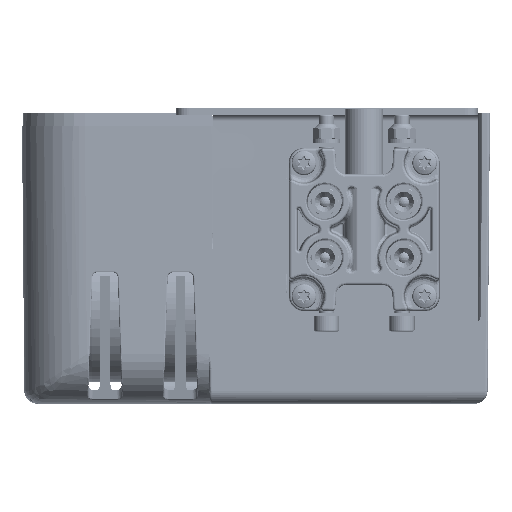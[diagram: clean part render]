
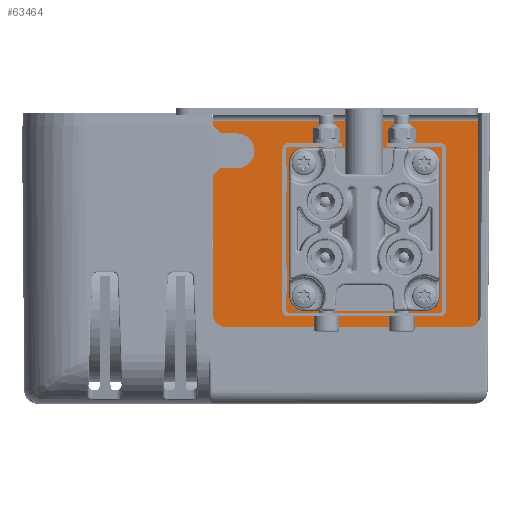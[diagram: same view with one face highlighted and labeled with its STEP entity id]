
A CAD part, left-side view. The second image highlights one B-rep face of the part: STEP entity #63464.
In plain terms, the highlighted planar face has unit normal (-1, 0, 0) as drawn and (0, 0, 1) by its records, which use the part's own axes.
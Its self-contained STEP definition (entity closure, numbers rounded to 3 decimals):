
#7462=LINE('',#131674,#11196);
#7465=LINE('',#131680,#11199);
#7468=LINE('',#131686,#11202);
#7471=LINE('',#131691,#11205);
#7474=LINE('',#131698,#11208);
#7477=LINE('',#131704,#11211);
#7480=LINE('',#131710,#11214);
#7483=LINE('',#131715,#11217);
#7486=LINE('',#131722,#11220);
#7489=LINE('',#131728,#11223);
#7492=LINE('',#131734,#11226);
#7495=LINE('',#131739,#11229);
#7510=LINE('',#131792,#11244);
#7511=LINE('',#131795,#11245);
#7512=LINE('',#131797,#11246);
#7513=LINE('',#131799,#11247);
#7514=LINE('',#131808,#11248);
#7515=LINE('',#131811,#11249);
#7516=LINE('',#131813,#11250);
#7517=LINE('',#131815,#11251);
#7518=LINE('',#131817,#11252);
#7519=LINE('',#131819,#11253);
#7520=LINE('',#131821,#11254);
#7521=LINE('',#131823,#11255);
#7522=LINE('',#131825,#11256);
#7523=LINE('',#131827,#11257);
#7524=LINE('',#131829,#11258);
#11196=VECTOR('',#77596,1000.);
#11199=VECTOR('',#77601,1000.);
#11202=VECTOR('',#77606,1000.);
#11205=VECTOR('',#77611,1000.);
#11208=VECTOR('',#77616,1000.);
#11211=VECTOR('',#77621,1000.);
#11214=VECTOR('',#77626,1000.);
#11217=VECTOR('',#77631,1000.);
#11220=VECTOR('',#77636,1000.);
#11223=VECTOR('',#77641,1000.);
#11226=VECTOR('',#77646,1000.);
#11229=VECTOR('',#77651,1000.);
#11244=VECTOR('',#77694,1000.);
#11245=VECTOR('',#77695,1000.);
#11246=VECTOR('',#77696,1000.);
#11247=VECTOR('',#77697,1000.);
#11248=VECTOR('',#77706,1000.);
#11249=VECTOR('',#77707,1000.);
#11250=VECTOR('',#77708,1000.);
#11251=VECTOR('',#77709,1000.);
#11252=VECTOR('',#77710,1000.);
#11253=VECTOR('',#77711,1000.);
#11254=VECTOR('',#77712,1000.);
#11255=VECTOR('',#77713,1000.);
#11256=VECTOR('',#77714,1000.);
#11257=VECTOR('',#77715,1000.);
#11258=VECTOR('',#77716,1000.);
#13589=PLANE('',#68047);
#22462=ORIENTED_EDGE('',*,*,#37341,.F.);
#22463=ORIENTED_EDGE('',*,*,#37338,.F.);
#22464=ORIENTED_EDGE('',*,*,#37347,.F.);
#22465=ORIENTED_EDGE('',*,*,#37344,.F.);
#22466=ORIENTED_EDGE('',*,*,#37353,.F.);
#22467=ORIENTED_EDGE('',*,*,#37350,.F.);
#22468=ORIENTED_EDGE('',*,*,#37359,.F.);
#22469=ORIENTED_EDGE('',*,*,#37356,.F.);
#22470=ORIENTED_EDGE('',*,*,#37365,.F.);
#22471=ORIENTED_EDGE('',*,*,#37362,.F.);
#22472=ORIENTED_EDGE('',*,*,#37371,.F.);
#22473=ORIENTED_EDGE('',*,*,#37368,.F.);
#22474=ORIENTED_EDGE('',*,*,#37396,.F.);
#22475=ORIENTED_EDGE('',*,*,#37397,.F.);
#22476=ORIENTED_EDGE('',*,*,#37398,.F.);
#22477=ORIENTED_EDGE('',*,*,#37399,.F.);
#22478=ORIENTED_EDGE('',*,*,#37400,.F.);
#22479=ORIENTED_EDGE('',*,*,#37401,.F.);
#22480=ORIENTED_EDGE('',*,*,#37402,.F.);
#22481=ORIENTED_EDGE('',*,*,#37403,.F.);
#22482=ORIENTED_EDGE('',*,*,#37404,.F.);
#22483=ORIENTED_EDGE('',*,*,#37405,.T.);
#22484=ORIENTED_EDGE('',*,*,#37406,.F.);
#22485=ORIENTED_EDGE('',*,*,#37407,.F.);
#22486=ORIENTED_EDGE('',*,*,#37408,.F.);
#22487=ORIENTED_EDGE('',*,*,#37409,.T.);
#22488=ORIENTED_EDGE('',*,*,#37410,.F.);
#22489=ORIENTED_EDGE('',*,*,#37411,.T.);
#22490=ORIENTED_EDGE('',*,*,#37412,.F.);
#22491=ORIENTED_EDGE('',*,*,#37413,.T.);
#22492=ORIENTED_EDGE('',*,*,#37414,.F.);
#22493=ORIENTED_EDGE('',*,*,#37415,.F.);
#37338=EDGE_CURVE('',#45390,#45391,#7462,.T.);
#37341=EDGE_CURVE('',#45391,#45393,#7465,.T.);
#37344=EDGE_CURVE('',#45393,#45395,#7468,.T.);
#37347=EDGE_CURVE('',#45395,#45390,#7471,.T.);
#37350=EDGE_CURVE('',#45398,#45399,#7474,.T.);
#37353=EDGE_CURVE('',#45399,#45401,#7477,.T.);
#37356=EDGE_CURVE('',#45401,#45403,#7480,.T.);
#37359=EDGE_CURVE('',#45403,#45398,#7483,.T.);
#37362=EDGE_CURVE('',#45406,#45407,#7486,.T.);
#37365=EDGE_CURVE('',#45407,#45409,#7489,.T.);
#37368=EDGE_CURVE('',#45409,#45411,#7492,.T.);
#37371=EDGE_CURVE('',#45411,#45406,#7495,.T.);
#37396=EDGE_CURVE('',#45436,#45437,#7510,.T.);
#37397=EDGE_CURVE('',#45438,#45436,#7511,.T.);
#37398=EDGE_CURVE('',#45439,#45438,#7512,.T.);
#37399=EDGE_CURVE('',#45437,#45439,#7513,.T.);
#37400=EDGE_CURVE('',#45440,#45440,#49965,.T.);
#37401=EDGE_CURVE('',#45441,#45441,#49966,.T.);
#37402=EDGE_CURVE('',#45442,#45442,#49967,.T.);
#37403=EDGE_CURVE('',#45443,#45443,#49968,.T.);
#37404=EDGE_CURVE('',#45444,#45445,#7514,.T.);
#37405=EDGE_CURVE('',#45444,#45446,#7515,.F.);
#37406=EDGE_CURVE('',#45447,#45446,#7516,.T.);
#37407=EDGE_CURVE('',#45448,#45447,#7517,.T.);
#37408=EDGE_CURVE('',#45449,#45448,#7518,.T.);
#37409=EDGE_CURVE('',#45449,#45450,#7519,.T.);
#37410=EDGE_CURVE('',#45451,#45450,#7520,.T.);
#37411=EDGE_CURVE('',#45451,#45452,#7521,.T.);
#37412=EDGE_CURVE('',#45453,#45452,#7522,.T.);
#37413=EDGE_CURVE('',#45453,#45454,#7523,.F.);
#37414=EDGE_CURVE('',#45455,#45454,#7524,.T.);
#37415=EDGE_CURVE('',#45445,#45455,#49969,.F.);
#45390=VERTEX_POINT('',#131673);
#45391=VERTEX_POINT('',#131675);
#45393=VERTEX_POINT('',#131681);
#45395=VERTEX_POINT('',#131687);
#45398=VERTEX_POINT('',#131697);
#45399=VERTEX_POINT('',#131699);
#45401=VERTEX_POINT('',#131705);
#45403=VERTEX_POINT('',#131711);
#45406=VERTEX_POINT('',#131721);
#45407=VERTEX_POINT('',#131723);
#45409=VERTEX_POINT('',#131729);
#45411=VERTEX_POINT('',#131735);
#45436=VERTEX_POINT('',#131793);
#45437=VERTEX_POINT('',#131794);
#45438=VERTEX_POINT('',#131796);
#45439=VERTEX_POINT('',#131798);
#45440=VERTEX_POINT('',#131801);
#45441=VERTEX_POINT('',#131803);
#45442=VERTEX_POINT('',#131805);
#45443=VERTEX_POINT('',#131807);
#45444=VERTEX_POINT('',#131809);
#45445=VERTEX_POINT('',#131810);
#45446=VERTEX_POINT('',#131812);
#45447=VERTEX_POINT('',#131814);
#45448=VERTEX_POINT('',#131816);
#45449=VERTEX_POINT('',#131818);
#45450=VERTEX_POINT('',#131820);
#45451=VERTEX_POINT('',#131822);
#45452=VERTEX_POINT('',#131824);
#45453=VERTEX_POINT('',#131826);
#45454=VERTEX_POINT('',#131828);
#45455=VERTEX_POINT('',#131830);
#49965=CIRCLE('',#68048,3.4);
#49966=CIRCLE('',#68049,3.4);
#49967=CIRCLE('',#68050,3.4);
#49968=CIRCLE('',#68051,12.5);
#49969=CIRCLE('',#68052,6.9);
#53062=EDGE_LOOP('',(#22462,#22463,#22464,#22465));
#53063=EDGE_LOOP('',(#22466,#22467,#22468,#22469));
#53064=EDGE_LOOP('',(#22470,#22471,#22472,#22473));
#53065=EDGE_LOOP('',(#22474,#22475,#22476,#22477));
#53066=EDGE_LOOP('',(#22478));
#53067=EDGE_LOOP('',(#22479));
#53068=EDGE_LOOP('',(#22480));
#53069=EDGE_LOOP('',(#22481));
#53070=EDGE_LOOP('',(#22482,#22483,#22484,#22485,#22486,#22487,#22488,#22489,
#22490,#22491,#22492,#22493));
#57506=FACE_BOUND('',#53062,.T.);
#57507=FACE_BOUND('',#53063,.T.);
#57508=FACE_BOUND('',#53064,.T.);
#57509=FACE_BOUND('',#53065,.T.);
#57510=FACE_BOUND('',#53066,.T.);
#57511=FACE_BOUND('',#53067,.T.);
#57512=FACE_BOUND('',#53068,.T.);
#57513=FACE_BOUND('',#53069,.T.);
#57514=FACE_BOUND('',#53070,.T.);
#63464=ADVANCED_FACE('',(#57506,#57507,#57508,#57509,#57510,#57511,#57512,
#57513,#57514),#13589,.F.);
#68047=AXIS2_PLACEMENT_3D('',#131791,#77692,#77693);
#68048=AXIS2_PLACEMENT_3D('',#131800,#77698,#77699);
#68049=AXIS2_PLACEMENT_3D('',#131802,#77700,#77701);
#68050=AXIS2_PLACEMENT_3D('',#131804,#77702,#77703);
#68051=AXIS2_PLACEMENT_3D('',#131806,#77704,#77705);
#68052=AXIS2_PLACEMENT_3D('',#131831,#77717,#77718);
#77596=DIRECTION('',(0.,-1.,0.));
#77601=DIRECTION('',(1.,0.,0.));
#77606=DIRECTION('',(0.,1.,0.));
#77611=DIRECTION('',(-1.,0.,0.));
#77616=DIRECTION('',(0.,-1.,0.));
#77621=DIRECTION('',(1.,0.,0.));
#77626=DIRECTION('',(0.,1.,0.));
#77631=DIRECTION('',(-1.,0.,0.));
#77636=DIRECTION('',(0.,-1.,0.));
#77641=DIRECTION('',(1.,0.,0.));
#77646=DIRECTION('',(0.,1.,0.));
#77651=DIRECTION('',(-1.,0.,0.));
#77692=DIRECTION('',(0.,0.,-1.));
#77693=DIRECTION('',(-1.,0.,0.));
#77694=DIRECTION('',(1.,0.,0.));
#77695=DIRECTION('',(0.,-1.,0.));
#77696=DIRECTION('',(-1.,0.,0.));
#77697=DIRECTION('',(0.,1.,0.));
#77698=DIRECTION('',(0.,0.,1.));
#77699=DIRECTION('',(1.,0.,0.));
#77700=DIRECTION('',(0.,0.,1.));
#77701=DIRECTION('',(1.,0.,0.));
#77702=DIRECTION('',(0.,0.,1.));
#77703=DIRECTION('',(1.,0.,0.));
#77704=DIRECTION('',(0.,0.,1.));
#77705=DIRECTION('',(1.,0.,0.));
#77706=DIRECTION('',(1.,0.,0.));
#77707=DIRECTION('',(0.707,0.707,0.));
#77708=DIRECTION('',(0.,1.,0.));
#77709=DIRECTION('',(-1.,0.,0.));
#77710=DIRECTION('',(0.,1.,0.));
#77711=DIRECTION('',(1.,0.,0.));
#77712=DIRECTION('',(0.,-1.,0.));
#77713=DIRECTION('',(-1.,0.,0.));
#77714=DIRECTION('',(0.,1.,0.));
#77715=DIRECTION('',(-0.707,0.707,0.));
#77716=DIRECTION('',(-1.,0.,0.));
#77717=DIRECTION('',(0.,0.,-1.));
#77718=DIRECTION('',(-1.,0.,0.));
#131673=CARTESIAN_POINT('',(87.575,0.5,2.5));
#131674=CARTESIAN_POINT('',(87.575,0.5,2.5));
#131675=CARTESIAN_POINT('',(87.575,-9.85,2.5));
#131680=CARTESIAN_POINT('',(87.575,-9.85,2.5));
#131681=CARTESIAN_POINT('',(89.425,-9.85,2.5));
#131686=CARTESIAN_POINT('',(89.425,-9.85,2.5));
#131687=CARTESIAN_POINT('',(89.425,0.5,2.5));
#131691=CARTESIAN_POINT('',(89.425,0.5,2.5));
#131697=CARTESIAN_POINT('',(87.575,40.85,2.5));
#131698=CARTESIAN_POINT('',(87.575,40.85,2.5));
#131699=CARTESIAN_POINT('',(87.575,30.5,2.5));
#131704=CARTESIAN_POINT('',(87.575,30.5,2.5));
#131705=CARTESIAN_POINT('',(89.425,30.5,2.5));
#131710=CARTESIAN_POINT('',(89.425,30.5,2.5));
#131711=CARTESIAN_POINT('',(89.425,40.85,2.5));
#131715=CARTESIAN_POINT('',(89.425,40.85,2.5));
#131721=CARTESIAN_POINT('',(24.075,0.5,2.5));
#131722=CARTESIAN_POINT('',(24.075,0.5,2.5));
#131723=CARTESIAN_POINT('',(24.075,-9.85,2.5));
#131728=CARTESIAN_POINT('',(24.075,-9.85,2.5));
#131729=CARTESIAN_POINT('',(25.925,-9.85,2.5));
#131734=CARTESIAN_POINT('',(25.925,-9.85,2.5));
#131735=CARTESIAN_POINT('',(25.925,0.5,2.5));
#131739=CARTESIAN_POINT('',(25.925,0.5,2.5));
#131791=CARTESIAN_POINT('',(102.,62.25,2.5));
#131792=CARTESIAN_POINT('',(24.075,30.5,2.5));
#131793=CARTESIAN_POINT('',(24.075,30.5,2.5));
#131794=CARTESIAN_POINT('',(25.925,30.5,2.5));
#131795=CARTESIAN_POINT('',(24.075,40.85,2.5));
#131796=CARTESIAN_POINT('',(24.075,40.85,2.5));
#131797=CARTESIAN_POINT('',(25.925,40.85,2.5));
#131798=CARTESIAN_POINT('',(25.925,40.85,2.5));
#131799=CARTESIAN_POINT('',(25.925,30.5,2.5));
#131800=CARTESIAN_POINT('',(56.75,-9.9,2.5));
#131801=CARTESIAN_POINT('',(60.15,-9.9,2.5));
#131802=CARTESIAN_POINT('',(78.747,28.2,2.5));
#131803=CARTESIAN_POINT('',(82.147,28.2,2.5));
#131804=CARTESIAN_POINT('',(34.753,28.2,2.5));
#131805=CARTESIAN_POINT('',(38.153,28.2,2.5));
#131806=CARTESIAN_POINT('',(56.75,15.5,2.5));
#131807=CARTESIAN_POINT('',(69.25,15.5,2.5));
#131808=CARTESIAN_POINT('',(102.,39.95,2.5));
#131809=CARTESIAN_POINT('',(-0.25,39.95,2.5));
#131810=CARTESIAN_POINT('',(6.25,39.95,2.5));
#131811=CARTESIAN_POINT('',(-3.25,36.95,2.5));
#131812=CARTESIAN_POINT('',(-3.25,36.95,2.5));
#131813=CARTESIAN_POINT('',(-3.25,62.25,2.5));
#131814=CARTESIAN_POINT('',(-3.25,-43.25,2.5));
#131815=CARTESIAN_POINT('',(0.,-43.25,2.5));
#131816=CARTESIAN_POINT('',(0.,-43.25,2.5));
#131817=CARTESIAN_POINT('',(0.,-48.25,2.5));
#131818=CARTESIAN_POINT('',(0.,-43.3,2.5));
#131819=CARTESIAN_POINT('',(-77.143,-43.3,2.5));
#131820=CARTESIAN_POINT('',(102.,-43.3,2.5));
#131821=CARTESIAN_POINT('',(102.,62.25,2.5));
#131822=CARTESIAN_POINT('',(102.,58.75,2.5));
#131823=CARTESIAN_POINT('',(312.5,58.75,2.5));
#131824=CARTESIAN_POINT('',(-3.25,58.75,2.5));
#131825=CARTESIAN_POINT('',(-3.25,62.25,2.5));
#131826=CARTESIAN_POINT('',(-3.25,56.75,2.5));
#131827=CARTESIAN_POINT('',(-0.25,53.75,2.5));
#131828=CARTESIAN_POINT('',(-0.25,53.75,2.5));
#131829=CARTESIAN_POINT('',(102.,53.75,2.5));
#131830=CARTESIAN_POINT('',(6.25,53.75,2.5));
#131831=CARTESIAN_POINT('',(6.25,46.85,2.5));
